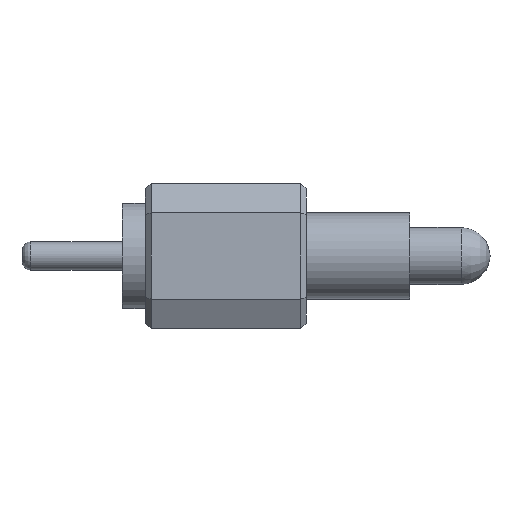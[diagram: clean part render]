
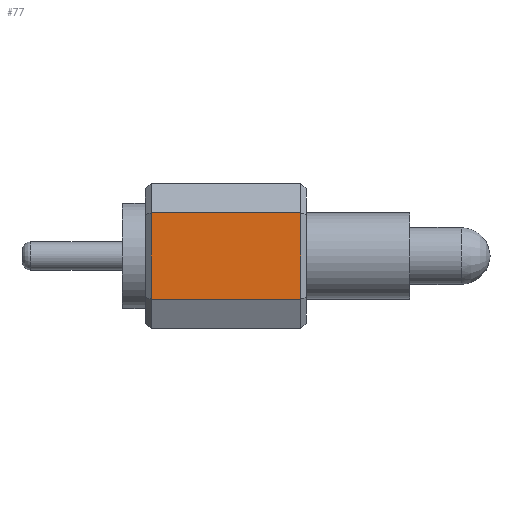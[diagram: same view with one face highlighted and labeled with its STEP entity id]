
A CAD part, front view. The second image highlights one B-rep face of the part: STEP entity #77.
In plain terms, the highlighted planar face has unit normal (0, -1, 0).
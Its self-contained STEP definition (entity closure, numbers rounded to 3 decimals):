
#77 = ADVANCED_FACE('',(#78),#92,.F.);
#78 = FACE_BOUND('',#79,.F.);
#79 = EDGE_LOOP('',(#80,#115,#143,#171));
#80 = ORIENTED_EDGE('',*,*,#81,.T.);
#81 = EDGE_CURVE('',#82,#84,#86,.T.);
#82 = VERTEX_POINT('',#83);
#83 = CARTESIAN_POINT('',(0.5,-1.27,0.75));
#84 = VERTEX_POINT('',#85);
#85 = CARTESIAN_POINT('',(3.1,-1.27,0.75));
#86 = SURFACE_CURVE('',#87,(#91,#103),.PCURVE_S1.);
#87 = LINE('',#88,#89);
#88 = CARTESIAN_POINT('',(0.4,-1.27,0.75));
#89 = VECTOR('',#90,1.);
#90 = DIRECTION('',(1.,0.,0.));
#91 = PCURVE('',#92,#97);
#92 = PLANE('',#93);
#93 = AXIS2_PLACEMENT_3D('',#94,#95,#96);
#94 = CARTESIAN_POINT('',(0.4,-1.27,0.75));
#95 = DIRECTION('',(0.,1.,0.));
#96 = DIRECTION('',(0.,0.,-1.));
#97 = DEFINITIONAL_REPRESENTATION('',(#98),#102);
#98 = LINE('',#99,#100);
#99 = CARTESIAN_POINT('',(0.,0.));
#100 = VECTOR('',#101,1.);
#101 = DIRECTION('',(0.,-1.));
#102 = ( GEOMETRIC_REPRESENTATION_CONTEXT(2) 
PARAMETRIC_REPRESENTATION_CONTEXT() REPRESENTATION_CONTEXT('2D SPACE',''
  ) );
#103 = PCURVE('',#104,#109);
#104 = PLANE('',#105);
#105 = AXIS2_PLACEMENT_3D('',#106,#107,#108);
#106 = CARTESIAN_POINT('',(0.4,-1.,1.27));
#107 = DIRECTION('',(0.,0.887,-0.461));
#108 = DIRECTION('',(0.,-0.461,-0.887));
#109 = DEFINITIONAL_REPRESENTATION('',(#110),#114);
#110 = LINE('',#111,#112);
#111 = CARTESIAN_POINT('',(0.586,0.));
#112 = VECTOR('',#113,1.);
#113 = DIRECTION('',(0.,-1.));
#114 = ( GEOMETRIC_REPRESENTATION_CONTEXT(2) 
PARAMETRIC_REPRESENTATION_CONTEXT() REPRESENTATION_CONTEXT('2D SPACE',''
  ) );
#115 = ORIENTED_EDGE('',*,*,#116,.T.);
#116 = EDGE_CURVE('',#84,#117,#119,.T.);
#117 = VERTEX_POINT('',#118);
#118 = CARTESIAN_POINT('',(3.1,-1.27,-0.75));
#119 = SURFACE_CURVE('',#120,(#124,#131),.PCURVE_S1.);
#120 = LINE('',#121,#122);
#121 = CARTESIAN_POINT('',(3.1,-1.27,0.75));
#122 = VECTOR('',#123,1.);
#123 = DIRECTION('',(0.,0.,-1.));
#124 = PCURVE('',#92,#125);
#125 = DEFINITIONAL_REPRESENTATION('',(#126),#130);
#126 = LINE('',#127,#128);
#127 = CARTESIAN_POINT('',(0.,-2.7));
#128 = VECTOR('',#129,1.);
#129 = DIRECTION('',(1.,0.));
#130 = ( GEOMETRIC_REPRESENTATION_CONTEXT(2) 
PARAMETRIC_REPRESENTATION_CONTEXT() REPRESENTATION_CONTEXT('2D SPACE',''
  ) );
#131 = PCURVE('',#132,#137);
#132 = PLANE('',#133);
#133 = AXIS2_PLACEMENT_3D('',#134,#135,#136);
#134 = CARTESIAN_POINT('',(3.15,-1.22,0.75));
#135 = DIRECTION('',(-0.707,0.707,0.));
#136 = DIRECTION('',(0.,0.,1.));
#137 = DEFINITIONAL_REPRESENTATION('',(#138),#142);
#138 = LINE('',#139,#140);
#139 = CARTESIAN_POINT('',(0.,-0.071));
#140 = VECTOR('',#141,1.);
#141 = DIRECTION('',(-1.,0.));
#142 = ( GEOMETRIC_REPRESENTATION_CONTEXT(2) 
PARAMETRIC_REPRESENTATION_CONTEXT() REPRESENTATION_CONTEXT('2D SPACE',''
  ) );
#143 = ORIENTED_EDGE('',*,*,#144,.F.);
#144 = EDGE_CURVE('',#145,#117,#147,.T.);
#145 = VERTEX_POINT('',#146);
#146 = CARTESIAN_POINT('',(0.5,-1.27,-0.75));
#147 = SURFACE_CURVE('',#148,(#152,#159),.PCURVE_S1.);
#148 = LINE('',#149,#150);
#149 = CARTESIAN_POINT('',(0.4,-1.27,-0.75));
#150 = VECTOR('',#151,1.);
#151 = DIRECTION('',(1.,0.,0.));
#152 = PCURVE('',#92,#153);
#153 = DEFINITIONAL_REPRESENTATION('',(#154),#158);
#154 = LINE('',#155,#156);
#155 = CARTESIAN_POINT('',(1.5,0.));
#156 = VECTOR('',#157,1.);
#157 = DIRECTION('',(0.,-1.));
#158 = ( GEOMETRIC_REPRESENTATION_CONTEXT(2) 
PARAMETRIC_REPRESENTATION_CONTEXT() REPRESENTATION_CONTEXT('2D SPACE',''
  ) );
#159 = PCURVE('',#160,#165);
#160 = PLANE('',#161);
#161 = AXIS2_PLACEMENT_3D('',#162,#163,#164);
#162 = CARTESIAN_POINT('',(0.4,-1.27,-0.75));
#163 = DIRECTION('',(0.,0.887,0.461));
#164 = DIRECTION('',(0.,0.461,-0.887));
#165 = DEFINITIONAL_REPRESENTATION('',(#166),#170);
#166 = LINE('',#167,#168);
#167 = CARTESIAN_POINT('',(0.,0.));
#168 = VECTOR('',#169,1.);
#169 = DIRECTION('',(0.,-1.));
#170 = ( GEOMETRIC_REPRESENTATION_CONTEXT(2) 
PARAMETRIC_REPRESENTATION_CONTEXT() REPRESENTATION_CONTEXT('2D SPACE',''
  ) );
#171 = ORIENTED_EDGE('',*,*,#172,.F.);
#172 = EDGE_CURVE('',#82,#145,#173,.T.);
#173 = SURFACE_CURVE('',#174,(#178,#185),.PCURVE_S1.);
#174 = LINE('',#175,#176);
#175 = CARTESIAN_POINT('',(0.5,-1.27,0.75));
#176 = VECTOR('',#177,1.);
#177 = DIRECTION('',(0.,0.,-1.));
#178 = PCURVE('',#92,#179);
#179 = DEFINITIONAL_REPRESENTATION('',(#180),#184);
#180 = LINE('',#181,#182);
#181 = CARTESIAN_POINT('',(0.,-0.1));
#182 = VECTOR('',#183,1.);
#183 = DIRECTION('',(1.,0.));
#184 = ( GEOMETRIC_REPRESENTATION_CONTEXT(2) 
PARAMETRIC_REPRESENTATION_CONTEXT() REPRESENTATION_CONTEXT('2D SPACE',''
  ) );
#185 = PCURVE('',#186,#191);
#186 = PLANE('',#187);
#187 = AXIS2_PLACEMENT_3D('',#188,#189,#190);
#188 = CARTESIAN_POINT('',(0.45,-1.22,0.75));
#189 = DIRECTION('',(-0.707,-0.707,-0.));
#190 = DIRECTION('',(0.,0.,1.));
#191 = DEFINITIONAL_REPRESENTATION('',(#192),#196);
#192 = LINE('',#193,#194);
#193 = CARTESIAN_POINT('',(0.,-0.071));
#194 = VECTOR('',#195,1.);
#195 = DIRECTION('',(-1.,0.));
#196 = ( GEOMETRIC_REPRESENTATION_CONTEXT(2) 
PARAMETRIC_REPRESENTATION_CONTEXT() REPRESENTATION_CONTEXT('2D SPACE',''
  ) );
